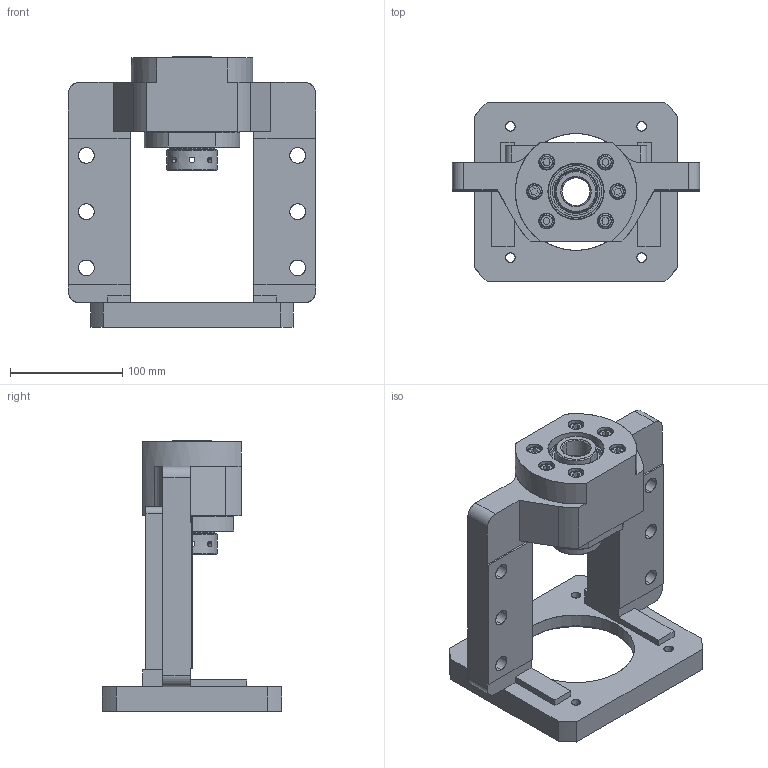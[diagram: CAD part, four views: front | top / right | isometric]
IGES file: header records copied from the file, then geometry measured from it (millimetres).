
Start section: SolidWorks IGES file using analytic representation for surfaces
Bounding box: 220 x 160 x 241 mm (x, y, z)
Surface area: 218747 mm2 (no closed solid volume)
Topology: 0 solids, 0 shells, 335 faces, 6521 edges, 6513 vertices
Faces by surface type: revolution 182, bspline 153
